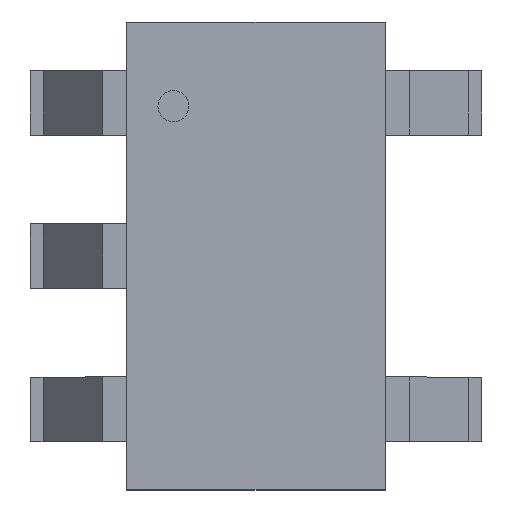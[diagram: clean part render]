
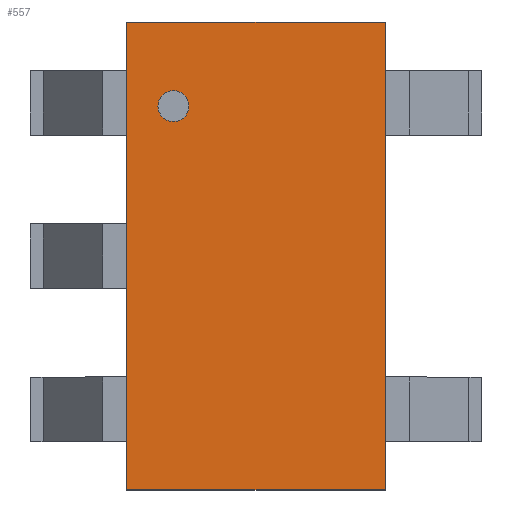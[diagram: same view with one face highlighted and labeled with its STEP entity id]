
A CAD part, top view. The second image highlights one B-rep face of the part: STEP entity #557.
In plain terms, the highlighted planar face has unit normal (0, 0, 1).
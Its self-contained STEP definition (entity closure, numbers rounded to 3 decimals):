
#50 = VERTEX_POINT('',#51);
#51 = CARTESIAN_POINT('',(-0.8,-1.45,1.175));
#58 = PLANE('',#59);
#59 = AXIS2_PLACEMENT_3D('',#60,#61,#62);
#60 = CARTESIAN_POINT('',(-0.8,-1.45,0.075));
#61 = DIRECTION('',(1.,0.,0.));
#62 = DIRECTION('',(0.,0.,1.));
#70 = PLANE('',#71);
#71 = AXIS2_PLACEMENT_3D('',#72,#73,#74);
#72 = CARTESIAN_POINT('',(-0.8,-1.45,0.075));
#73 = DIRECTION('',(0.,1.,0.));
#74 = DIRECTION('',(0.,0.,1.));
#111 = VERTEX_POINT('',#112);
#112 = CARTESIAN_POINT('',(-0.8,1.45,1.175));
#126 = PLANE('',#127);
#127 = AXIS2_PLACEMENT_3D('',#128,#129,#130);
#128 = CARTESIAN_POINT('',(-0.8,1.45,0.075));
#129 = DIRECTION('',(0.,1.,0.));
#130 = DIRECTION('',(0.,0.,1.));
#138 = EDGE_CURVE('',#50,#111,#139,.T.);
#139 = SURFACE_CURVE('',#140,(#144,#151),.PCURVE_S1.);
#140 = LINE('',#141,#142);
#141 = CARTESIAN_POINT('',(-0.8,-1.45,1.175));
#142 = VECTOR('',#143,1.);
#143 = DIRECTION('',(0.,1.,0.));
#144 = PCURVE('',#58,#145);
#145 = DEFINITIONAL_REPRESENTATION('',(#146),#150);
#146 = LINE('',#147,#148);
#147 = CARTESIAN_POINT('',(1.1,0.));
#148 = VECTOR('',#149,1.);
#149 = DIRECTION('',(0.,-1.));
#150 = ( GEOMETRIC_REPRESENTATION_CONTEXT(2) 
PARAMETRIC_REPRESENTATION_CONTEXT() REPRESENTATION_CONTEXT('2D SPACE',''
  ) );
#151 = PCURVE('',#152,#157);
#152 = PLANE('',#153);
#153 = AXIS2_PLACEMENT_3D('',#154,#155,#156);
#154 = CARTESIAN_POINT('',(-0.8,-1.45,1.175));
#155 = DIRECTION('',(0.,0.,1.));
#156 = DIRECTION('',(1.,0.,0.));
#157 = DEFINITIONAL_REPRESENTATION('',(#158),#162);
#158 = LINE('',#159,#160);
#159 = CARTESIAN_POINT('',(0.,0.));
#160 = VECTOR('',#161,1.);
#161 = DIRECTION('',(0.,1.));
#162 = ( GEOMETRIC_REPRESENTATION_CONTEXT(2) 
PARAMETRIC_REPRESENTATION_CONTEXT() REPRESENTATION_CONTEXT('2D SPACE',''
  ) );
#509 = EDGE_CURVE('',#50,#510,#512,.T.);
#510 = VERTEX_POINT('',#511);
#511 = CARTESIAN_POINT('',(0.8,-1.45,1.175));
#512 = SURFACE_CURVE('',#513,(#517,#524),.PCURVE_S1.);
#513 = LINE('',#514,#515);
#514 = CARTESIAN_POINT('',(-0.8,-1.45,1.175));
#515 = VECTOR('',#516,1.);
#516 = DIRECTION('',(1.,0.,0.));
#517 = PCURVE('',#70,#518);
#518 = DEFINITIONAL_REPRESENTATION('',(#519),#523);
#519 = LINE('',#520,#521);
#520 = CARTESIAN_POINT('',(1.1,0.));
#521 = VECTOR('',#522,1.);
#522 = DIRECTION('',(0.,1.));
#523 = ( GEOMETRIC_REPRESENTATION_CONTEXT(2) 
PARAMETRIC_REPRESENTATION_CONTEXT() REPRESENTATION_CONTEXT('2D SPACE',''
  ) );
#524 = PCURVE('',#152,#525);
#525 = DEFINITIONAL_REPRESENTATION('',(#526),#530);
#526 = LINE('',#527,#528);
#527 = CARTESIAN_POINT('',(0.,0.));
#528 = VECTOR('',#529,1.);
#529 = DIRECTION('',(1.,0.));
#530 = ( GEOMETRIC_REPRESENTATION_CONTEXT(2) 
PARAMETRIC_REPRESENTATION_CONTEXT() REPRESENTATION_CONTEXT('2D SPACE',''
  ) );
#546 = PLANE('',#547);
#547 = AXIS2_PLACEMENT_3D('',#548,#549,#550);
#548 = CARTESIAN_POINT('',(0.8,-1.45,0.075));
#549 = DIRECTION('',(1.,0.,0.));
#550 = DIRECTION('',(0.,0.,1.));
#557 = ADVANCED_FACE('',(#558,#606),#152,.T.);
#558 = FACE_BOUND('',#559,.T.);
#559 = EDGE_LOOP('',(#560,#561,#562,#585));
#560 = ORIENTED_EDGE('',*,*,#138,.F.);
#561 = ORIENTED_EDGE('',*,*,#509,.T.);
#562 = ORIENTED_EDGE('',*,*,#563,.T.);
#563 = EDGE_CURVE('',#510,#564,#566,.T.);
#564 = VERTEX_POINT('',#565);
#565 = CARTESIAN_POINT('',(0.8,1.45,1.175));
#566 = SURFACE_CURVE('',#567,(#571,#578),.PCURVE_S1.);
#567 = LINE('',#568,#569);
#568 = CARTESIAN_POINT('',(0.8,-1.45,1.175));
#569 = VECTOR('',#570,1.);
#570 = DIRECTION('',(0.,1.,0.));
#571 = PCURVE('',#152,#572);
#572 = DEFINITIONAL_REPRESENTATION('',(#573),#577);
#573 = LINE('',#574,#575);
#574 = CARTESIAN_POINT('',(1.6,0.));
#575 = VECTOR('',#576,1.);
#576 = DIRECTION('',(0.,1.));
#577 = ( GEOMETRIC_REPRESENTATION_CONTEXT(2) 
PARAMETRIC_REPRESENTATION_CONTEXT() REPRESENTATION_CONTEXT('2D SPACE',''
  ) );
#578 = PCURVE('',#546,#579);
#579 = DEFINITIONAL_REPRESENTATION('',(#580),#584);
#580 = LINE('',#581,#582);
#581 = CARTESIAN_POINT('',(1.1,0.));
#582 = VECTOR('',#583,1.);
#583 = DIRECTION('',(0.,-1.));
#584 = ( GEOMETRIC_REPRESENTATION_CONTEXT(2) 
PARAMETRIC_REPRESENTATION_CONTEXT() REPRESENTATION_CONTEXT('2D SPACE',''
  ) );
#585 = ORIENTED_EDGE('',*,*,#586,.F.);
#586 = EDGE_CURVE('',#111,#564,#587,.T.);
#587 = SURFACE_CURVE('',#588,(#592,#599),.PCURVE_S1.);
#588 = LINE('',#589,#590);
#589 = CARTESIAN_POINT('',(-0.8,1.45,1.175));
#590 = VECTOR('',#591,1.);
#591 = DIRECTION('',(1.,0.,0.));
#592 = PCURVE('',#152,#593);
#593 = DEFINITIONAL_REPRESENTATION('',(#594),#598);
#594 = LINE('',#595,#596);
#595 = CARTESIAN_POINT('',(0.,2.9));
#596 = VECTOR('',#597,1.);
#597 = DIRECTION('',(1.,0.));
#598 = ( GEOMETRIC_REPRESENTATION_CONTEXT(2) 
PARAMETRIC_REPRESENTATION_CONTEXT() REPRESENTATION_CONTEXT('2D SPACE',''
  ) );
#599 = PCURVE('',#126,#600);
#600 = DEFINITIONAL_REPRESENTATION('',(#601),#605);
#601 = LINE('',#602,#603);
#602 = CARTESIAN_POINT('',(1.1,0.));
#603 = VECTOR('',#604,1.);
#604 = DIRECTION('',(0.,1.));
#605 = ( GEOMETRIC_REPRESENTATION_CONTEXT(2) 
PARAMETRIC_REPRESENTATION_CONTEXT() REPRESENTATION_CONTEXT('2D SPACE',''
  ) );
#606 = FACE_BOUND('',#607,.T.);
#607 = EDGE_LOOP('',(#608));
#608 = ORIENTED_EDGE('',*,*,#609,.F.);
#609 = EDGE_CURVE('',#610,#610,#612,.T.);
#610 = VERTEX_POINT('',#611);
#611 = CARTESIAN_POINT('',(-0.416,0.928,1.175));
#612 = SURFACE_CURVE('',#613,(#618,#625),.PCURVE_S1.);
#613 = CIRCLE('',#614,0.096);
#614 = AXIS2_PLACEMENT_3D('',#615,#616,#617);
#615 = CARTESIAN_POINT('',(-0.512,0.928,1.175));
#616 = DIRECTION('',(0.,0.,1.));
#617 = DIRECTION('',(1.,0.,0.));
#618 = PCURVE('',#152,#619);
#619 = DEFINITIONAL_REPRESENTATION('',(#620),#624);
#620 = CIRCLE('',#621,0.096);
#621 = AXIS2_PLACEMENT_2D('',#622,#623);
#622 = CARTESIAN_POINT('',(0.288,2.378));
#623 = DIRECTION('',(1.,0.));
#624 = ( GEOMETRIC_REPRESENTATION_CONTEXT(2) 
PARAMETRIC_REPRESENTATION_CONTEXT() REPRESENTATION_CONTEXT('2D SPACE',''
  ) );
#625 = PCURVE('',#626,#631);
#626 = CYLINDRICAL_SURFACE('',#627,0.096);
#627 = AXIS2_PLACEMENT_3D('',#628,#629,#630);
#628 = CARTESIAN_POINT('',(-0.512,0.928,1.169));
#629 = DIRECTION('',(-0.,-0.,-1.));
#630 = DIRECTION('',(1.,0.,0.));
#631 = DEFINITIONAL_REPRESENTATION('',(#632),#636);
#632 = LINE('',#633,#634);
#633 = CARTESIAN_POINT('',(-0.,-0.006));
#634 = VECTOR('',#635,1.);
#635 = DIRECTION('',(-1.,0.));
#636 = ( GEOMETRIC_REPRESENTATION_CONTEXT(2) 
PARAMETRIC_REPRESENTATION_CONTEXT() REPRESENTATION_CONTEXT('2D SPACE',''
  ) );
